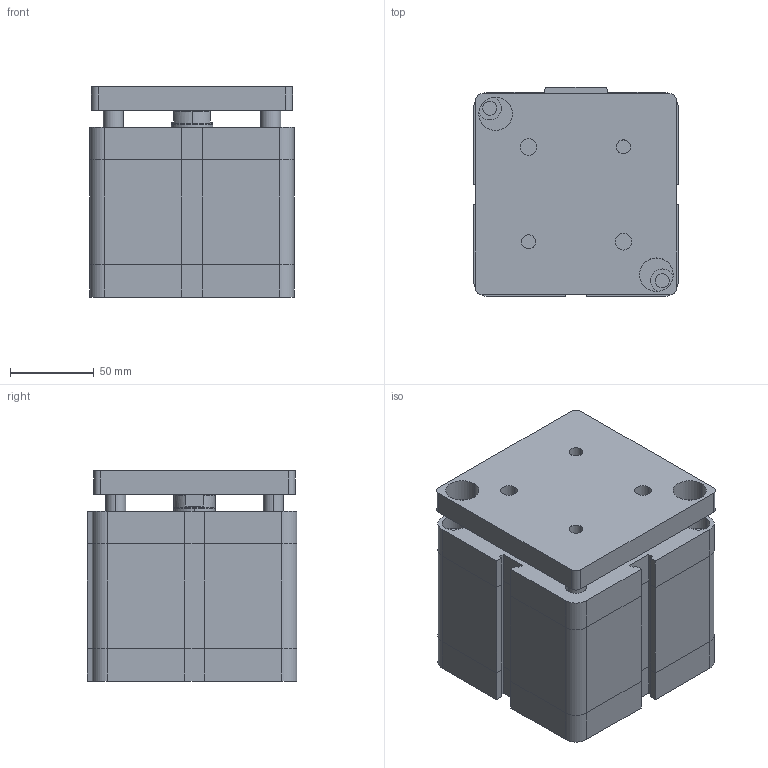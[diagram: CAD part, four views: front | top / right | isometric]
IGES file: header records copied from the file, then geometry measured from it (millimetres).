
Global section: file name: No Iges File Name specified; native system: Autodesk Inventor 2009; preprocessor: AutoDesk Inventor Iges Exporter R2009; author: maffial1; date: 20090420.201423; units: millimetre
Bounding box: 122 x 125 x 125.5 mm (x, y, z)
Volume: 1673924.8 mm3; surface area: 142755.5 mm2
Topology: 2 solids, 2 shells, 212 faces, 486 edges, 298 vertices
Faces by surface type: plane 111, bspline 67, cylinder 26, cone 8
